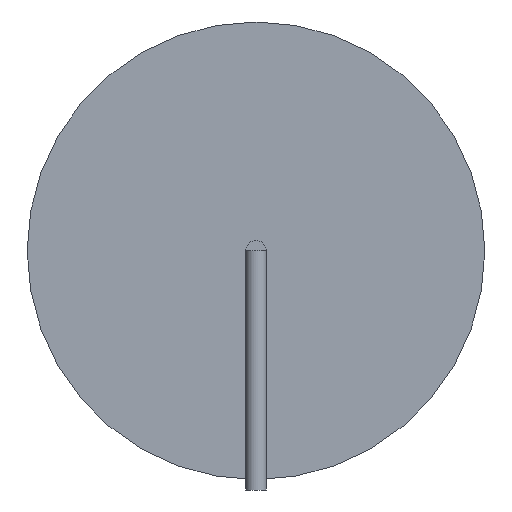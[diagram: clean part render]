
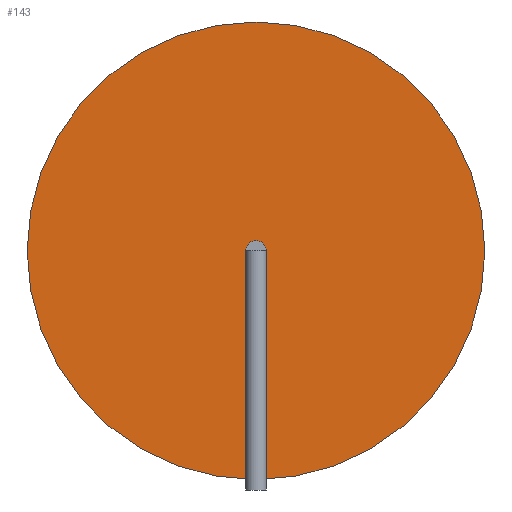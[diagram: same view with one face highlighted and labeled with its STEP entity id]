
A CAD part, left-side view. The second image highlights one B-rep face of the part: STEP entity #143.
In plain terms, the highlighted planar face has unit normal (-1, 0, 0).
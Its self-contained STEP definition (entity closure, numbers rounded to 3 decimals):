
#65 = CYLINDRICAL_SURFACE('',#66,13.25);
#66 = AXIS2_PLACEMENT_3D('',#67,#68,#69);
#67 = CARTESIAN_POINT('',(4.25,0.,13.85));
#68 = DIRECTION('',(1.,0.,0.));
#69 = DIRECTION('',(-0.,0.,1.));
#90 = VERTEX_POINT('',#91);
#91 = CARTESIAN_POINT('',(4.25,0.,27.1));
#112 = EDGE_CURVE('',#90,#90,#113,.T.);
#113 = SURFACE_CURVE('',#114,(#119,#126),.PCURVE_S1.);
#114 = CIRCLE('',#115,13.25);
#115 = AXIS2_PLACEMENT_3D('',#116,#117,#118);
#116 = CARTESIAN_POINT('',(4.25,0.,13.85));
#117 = DIRECTION('',(1.,0.,0.));
#118 = DIRECTION('',(-0.,0.,1.));
#119 = PCURVE('',#65,#120);
#120 = DEFINITIONAL_REPRESENTATION('',(#121),#125);
#121 = LINE('',#122,#123);
#122 = CARTESIAN_POINT('',(0.,0.));
#123 = VECTOR('',#124,1.);
#124 = DIRECTION('',(1.,0.));
#125 = ( GEOMETRIC_REPRESENTATION_CONTEXT(2) 
PARAMETRIC_REPRESENTATION_CONTEXT() REPRESENTATION_CONTEXT('2D SPACE',''
  ) );
#126 = PCURVE('',#127,#132);
#127 = PLANE('',#128);
#128 = AXIS2_PLACEMENT_3D('',#129,#130,#131);
#129 = CARTESIAN_POINT('',(4.25,0.,13.85));
#130 = DIRECTION('',(1.,0.,0.));
#131 = DIRECTION('',(-0.,0.,1.));
#132 = DEFINITIONAL_REPRESENTATION('',(#133),#137);
#133 = CIRCLE('',#134,13.25);
#134 = AXIS2_PLACEMENT_2D('',#135,#136);
#135 = CARTESIAN_POINT('',(0.,0.));
#136 = DIRECTION('',(1.,0.));
#137 = ( GEOMETRIC_REPRESENTATION_CONTEXT(2) 
PARAMETRIC_REPRESENTATION_CONTEXT() REPRESENTATION_CONTEXT('2D SPACE',''
  ) );
#143 = ADVANCED_FACE('',(#144),#127,.F.);
#144 = FACE_BOUND('',#145,.T.);
#145 = EDGE_LOOP('',(#146));
#146 = ORIENTED_EDGE('',*,*,#112,.F.);
